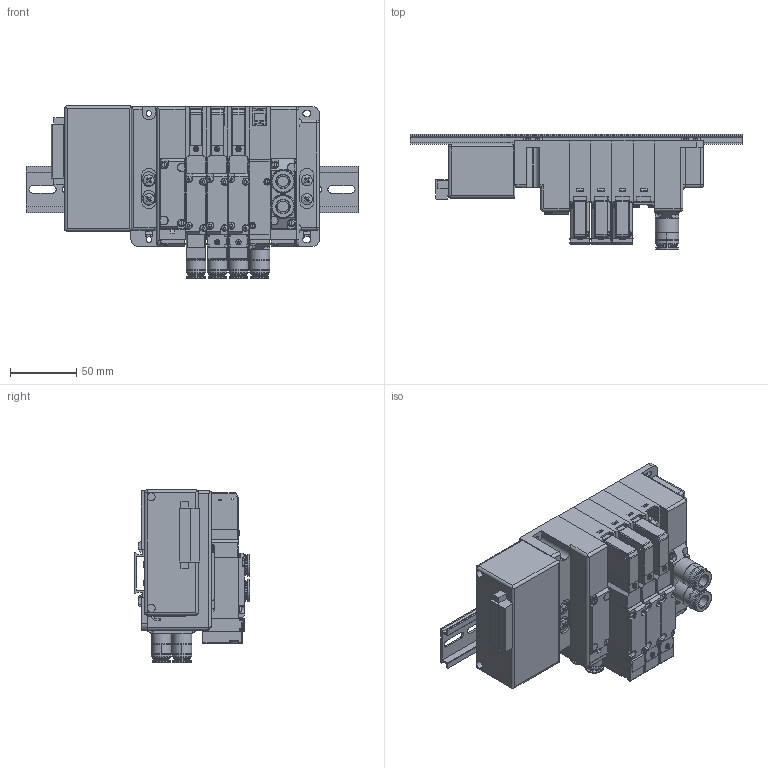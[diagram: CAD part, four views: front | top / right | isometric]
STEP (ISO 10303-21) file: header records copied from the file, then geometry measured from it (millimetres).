
FILE_DESCRIPTION( (''), '2;1');
FILE_NAME ('CVICAD02.4348.F15M4XSJ-JR-B1-DR_21860.stp','2021-07-12T19:14:54',(''),(''),'spGate 12.6.6','','');
FILE_SCHEMA (('AUTOMOTIVE_DESIGN'));
Length unit declared in the file: millimetre
Products named in the file (20): Assembly; CVICAD02-prt0; CVICAD02-prt1; CVICAD02-prt2; CVICAD02-prt3; CVICAD02-prt4; CVICAD02-prt5; CVICAD02-asm1; CVICAD02-asm2; CVICAD02-prt14; CVICAD02-prt15; CVICAD02-prt16; CVICAD02-prt6; CVICAD02-prt7; CVICAD02-prt8; CVICAD02-prt9; CVICAD02-prt10; CVICAD02-prt11; CVICAD02-prt12; CVICAD02-prt13
Assembly tree (34 placements, depth 3):
  Assembly
    CVICAD02-prt0  x4
    CVICAD02-prt1  x3
    CVICAD02-prt2
    CVICAD02-prt3  x4
    CVICAD02-prt4
    CVICAD02-prt5
    CVICAD02-asm1
      CVICAD02-prt6
      CVICAD02-prt7
      CVICAD02-prt8
      CVICAD02-prt9
      CVICAD02-prt10
      CVICAD02-prt11
      CVICAD02-prt12
    CVICAD02-asm2  x2
      CVICAD02-prt6
      CVICAD02-prt7
      CVICAD02-prt8
      CVICAD02-prt9
      CVICAD02-prt11
      CVICAD02-prt13
      CVICAD02-prt12
    CVICAD02-prt14
    CVICAD02-prt15
    CVICAD02-prt16
Bounding box: 250 x 86.6 x 129.7 mm (x, y, z)
Volume: 1011637.3 mm3; surface area: 252040.1 mm2
Topology: 38 solids, 38 shells, 3547 faces, 9176 edges, 5894 vertices
Faces by surface type: plane 2206, cylinder 961, bspline 332, sphere 48
Entity records: 91103 total; most frequent: CARTESIAN_POINT 12267, ORIENTED_EDGE 9022, DIRECTION 8502, COLOUR_RGB 6257, PRESENTATION_STYLE_ASSIGNMENT 6257, STYLED_ITEM 6257, EDGE_CURVE 4511, DRAUGHTING_PRE_DEFINED_CURVE_FONT 4511
